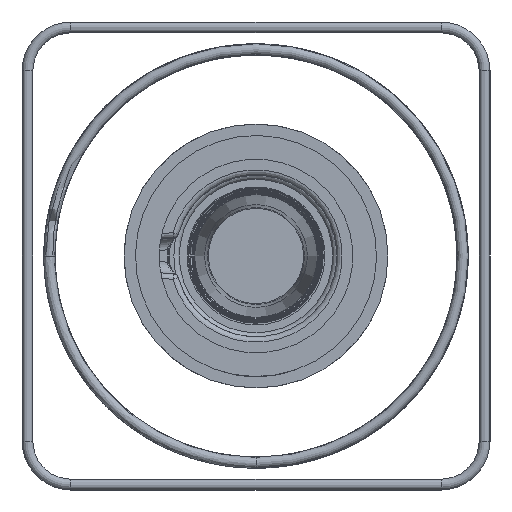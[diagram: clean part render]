
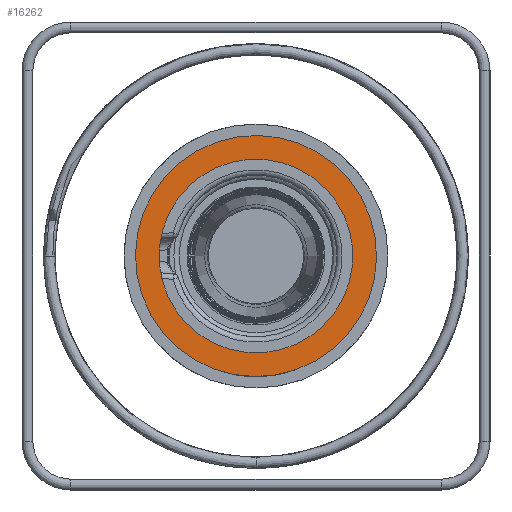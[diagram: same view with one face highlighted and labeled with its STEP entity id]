
A CAD part, left-side view. The second image highlights one B-rep face of the part: STEP entity #16262.
In plain terms, the highlighted planar face has unit normal (-1, 0, 0).
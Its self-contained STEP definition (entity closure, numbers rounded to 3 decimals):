
#177=FACE_BOUND('',#5495,.T.);
#850=PLANE('',#17348);
#4527=FACE_OUTER_BOUND('',#5494,.T.);
#5494=EDGE_LOOP('',(#14549));
#5495=EDGE_LOOP('',(#14550));
#6046=CIRCLE('',#17326,221.5);
#6048=CIRCLE('',#17349,178.);
#7646=VERTEX_POINT('',#44315);
#7648=VERTEX_POINT('',#44341);
#9968=EDGE_CURVE('',#7646,#7646,#6046,.T.);
#9971=EDGE_CURVE('',#7648,#7648,#6048,.T.);
#14549=ORIENTED_EDGE('',*,*,#9968,.T.);
#14550=ORIENTED_EDGE('',*,*,#9971,.F.);
#16262=ADVANCED_FACE('',(#4527,#177),#850,.T.);
#17326=AXIS2_PLACEMENT_3D('',#44316,#20381,#20382);
#17348=AXIS2_PLACEMENT_3D('',#44340,#20426,#20427);
#17349=AXIS2_PLACEMENT_3D('',#44342,#20428,#20429);
#20381=DIRECTION('center_axis',(-1.,0.,0.));
#20382=DIRECTION('ref_axis',(0.,-0.081,-0.997));
#20426=DIRECTION('center_axis',(-1.,0.,0.));
#20427=DIRECTION('ref_axis',(0.,0.081,0.997));
#20428=DIRECTION('center_axis',(-1.,0.,0.));
#20429=DIRECTION('ref_axis',(0.,-0.081,-0.997));
#44315=CARTESIAN_POINT('',(-785.,-171.272,140.457));
#44316=CARTESIAN_POINT('Origin',(-785.,0.,0.));
#44340=CARTESIAN_POINT('Origin',(-785.,177.42,-14.359));
#44341=CARTESIAN_POINT('',(-785.,-177.42,14.359));
#44342=CARTESIAN_POINT('Origin',(-785.,0.,0.));
